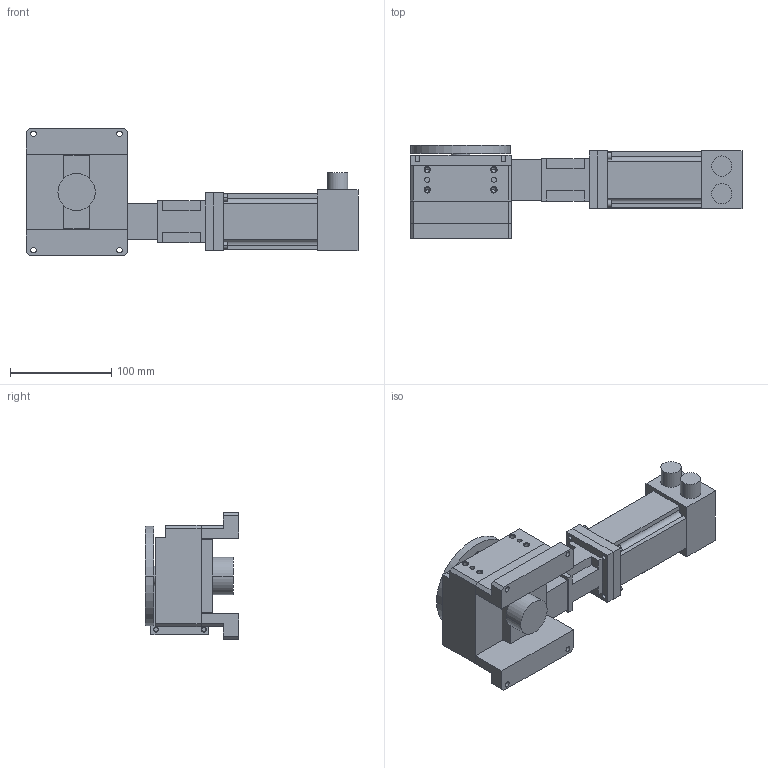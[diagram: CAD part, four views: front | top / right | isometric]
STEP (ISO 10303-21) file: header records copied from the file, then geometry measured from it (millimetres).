
FILE_DESCRIPTION((''),'2;1');
FILE_NAME('R100M6MP2E1_ASM','2009-07-02T',('FK20128'),(''),'PRO/ENGINEER BY PARAMETRIC TECHNOLOGY CORPORATION, 2006200','PRO/ENGINEER BY PARAMETRIC TECHNOLOGY CORPORATION, 2006200','');
FILE_SCHEMA(('CONFIG_CONTROL_DESIGN'));
Length unit declared in the file: millimetre
Products named in the file (8): R100M; R100M-M23; RXXXM-BE233; R100M-ENCODER-BRKT; RXXXM-ENCODER; R100M-ENCODER-STANDOFF; R100M-E1_ASM; R100M6MP2E1_ASM
Assembly tree (8 placements, depth 3):
  R100M6MP2E1_ASM
    R100M
    R100M-M23
    RXXXM-BE233
    R100M-E1_ASM
      R100M-ENCODER-BRKT
      RXXXM-ENCODER
      R100M-ENCODER-STANDOFF  x2
Bounding box: 328.15 x 92.01 x 125 mm (x, y, z)
Volume: 1201510.6 mm3; surface area: 176067.3 mm2
Topology: 7 solids, 29 shells, 351 faces, 864 edges, 578 vertices
Faces by surface type: cylinder 172, plane 157, cone 22
Entity records: 9911 total; most frequent: DIRECTION 1852, CARTESIAN_POINT 1661, ORIENTED_EDGE 1484, EDGE_CURVE 782, AXIS2_PLACEMENT_3D 721, VERTEX_POINT 530, EDGE_LOOP 422, VECTOR 410
